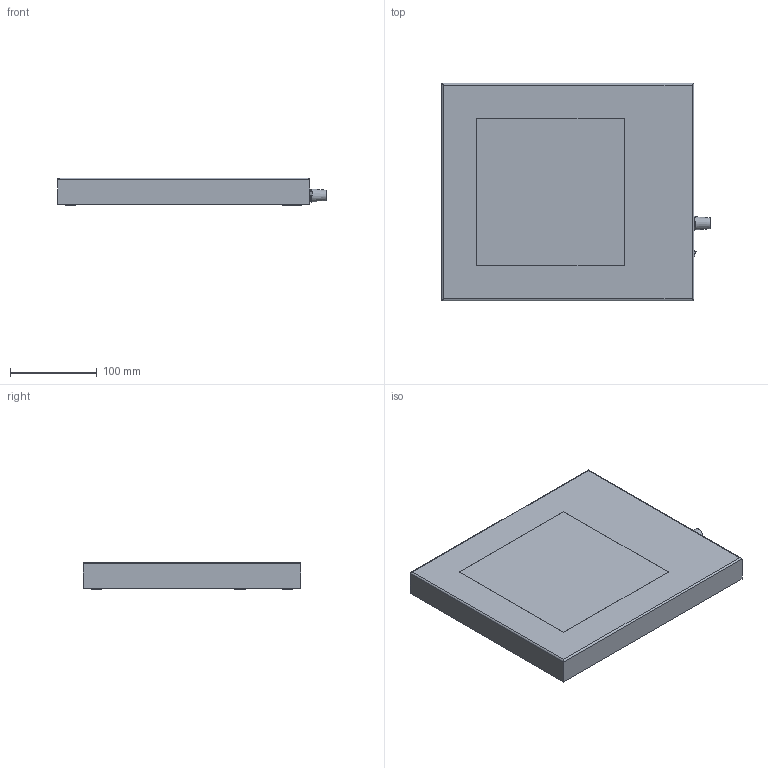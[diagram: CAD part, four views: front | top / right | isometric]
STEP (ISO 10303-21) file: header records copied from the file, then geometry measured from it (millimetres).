
FILE_DESCRIPTION(/* description */ (''),/* implementation_level */ '2;1');
FILE_NAME(/* name */ 'FOCUSOR-S',/* time_stamp */ '2020-07-27T14:37:51+02:00',/* author */ (''),/* organization */ (''),/* preprocessor_version */ 'ST-DEVELOPER v15.7',/* originating_system */ 'HiCAD 2015 2002.1 Build 408',/* authorisation */ '');
FILE_SCHEMA (('AUTOMOTIVE_DESIGN { 1 0 10303 214 1 1 1 1 }'));
Length unit declared in the file: millimetre
Products named in the file (7): Root; Baugruppe_Xled-2-VD; QUADER_0; ZYLINDER_0; KEGEL_0; PRISMA_1; QUADER_1
Assembly tree (6 placements, depth 4):
  Root
    Baugruppe_Xled-2-VD
      QUADER_0
      ZYLINDER_0
      KEGEL_0
        PRISMA_1
      QUADER_1
Bounding box: 309 x 250 x 32.1 mm (x, y, z)
Volume: 2176554.2 mm3; surface area: 182013.8 mm2
Topology: 5 solids, 5 shells, 121 faces, 262 edges, 164 vertices
Faces by surface type: plane 63, cylinder 40, torus 7, bspline 6, cone 5
Full cylindrical faces by diameter (mm): 2.1 x1, 5 x4, 5.6 x1, 6 x5, 8 x1, 11 x1, 12 x4, 12.6 x1, 15 x1
Entity records: 5577 total; most frequent: CARTESIAN_POINT 754, DIRECTION 547, PRESENTATION_STYLE_ASSIGNMENT 450, COLOUR_RGB 448, OVER_RIDING_STYLED_ITEM 445, DRAUGHTING_PRE_DEFINED_CURVE_FONT 444, CURVE_STYLE 444, ORIENTED_EDGE 444
